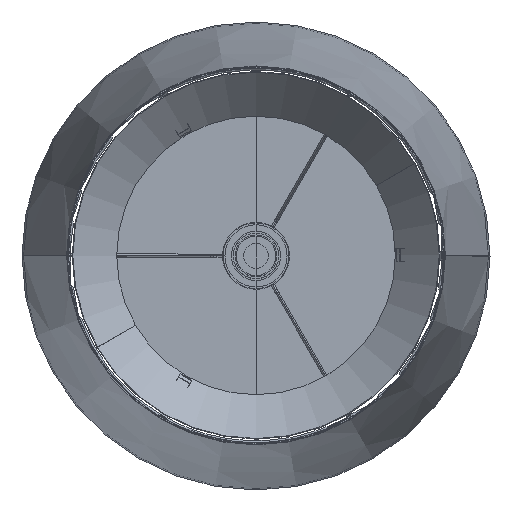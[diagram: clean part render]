
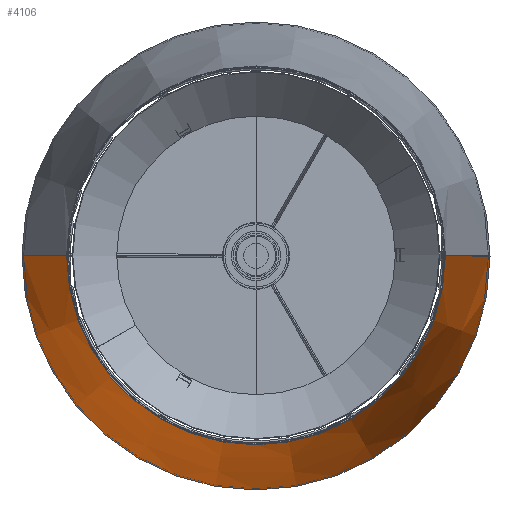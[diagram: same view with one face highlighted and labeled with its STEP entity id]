
A CAD part, top view. The second image highlights one B-rep face of the part: STEP entity #4106.
In plain terms, the highlighted conical face has half-angle 7.352 degrees and reference radius 39.006 mm.
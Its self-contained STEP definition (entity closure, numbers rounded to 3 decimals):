
#282=CONICAL_SURFACE('',#4538,39.006,0.128);
#439=CIRCLE('',#4479,210.);
#465=CIRCLE('',#4539,170.);
#786=FACE_OUTER_BOUND('',#1062,.T.);
#1062=EDGE_LOOP('',(#3633,#3634,#3635,#3636));
#1363=LINE('',#9527,#1647);
#1364=LINE('',#9530,#1648);
#1647=VECTOR('',#5647,1.);
#1648=VECTOR('',#5650,1.);
#1923=VERTEX_POINT('',#9027);
#1924=VERTEX_POINT('',#9028);
#2011=VERTEX_POINT('',#9526);
#2012=VERTEX_POINT('',#9528);
#2463=EDGE_CURVE('',#1923,#1924,#439,.T.);
#2591=EDGE_CURVE('',#2011,#1924,#1363,.T.);
#2592=EDGE_CURVE('',#2012,#2011,#465,.T.);
#2593=EDGE_CURVE('',#1923,#2012,#1364,.T.);
#3633=ORIENTED_EDGE('',*,*,#2591,.F.);
#3634=ORIENTED_EDGE('',*,*,#2592,.F.);
#3635=ORIENTED_EDGE('',*,*,#2593,.F.);
#3636=ORIENTED_EDGE('',*,*,#2463,.T.);
#4106=ADVANCED_FACE('',(#786),#282,.T.);
#4479=AXIS2_PLACEMENT_3D('',#9029,#5451,#5452);
#4538=AXIS2_PLACEMENT_3D('',#9525,#5645,#5646);
#4539=AXIS2_PLACEMENT_3D('',#9529,#5648,#5649);
#5451=DIRECTION('center_axis',(0.,0.,1.));
#5452=DIRECTION('ref_axis',(1.,-0.001,0.));
#5645=DIRECTION('center_axis',(0.,0.,
-1.));
#5646=DIRECTION('ref_axis',(1.,-0.001,0.));
#5647=DIRECTION('',(0.128,0.,-0.992));
#5648=DIRECTION('center_axis',(0.,0.,1.));
#5649=DIRECTION('ref_axis',(1.,-0.001,0.));
#5650=DIRECTION('',(0.128,0.,0.992));
#9027=CARTESIAN_POINT('',(-210.,0.228,0.));
#9028=CARTESIAN_POINT('',(210.,-0.228,0.));
#9029=CARTESIAN_POINT('Origin',(0.,0.,
0.));
#9525=CARTESIAN_POINT('Origin',(0.,0.,
1325.206));
#9526=CARTESIAN_POINT('',(170.,-0.184,310.));
#9527=CARTESIAN_POINT('',(170.,-0.184,310.));
#9528=CARTESIAN_POINT('',(-170.,0.184,310.));
#9529=CARTESIAN_POINT('Origin',(0.,0.,
310.));
#9530=CARTESIAN_POINT('',(-210.,0.228,0.));
